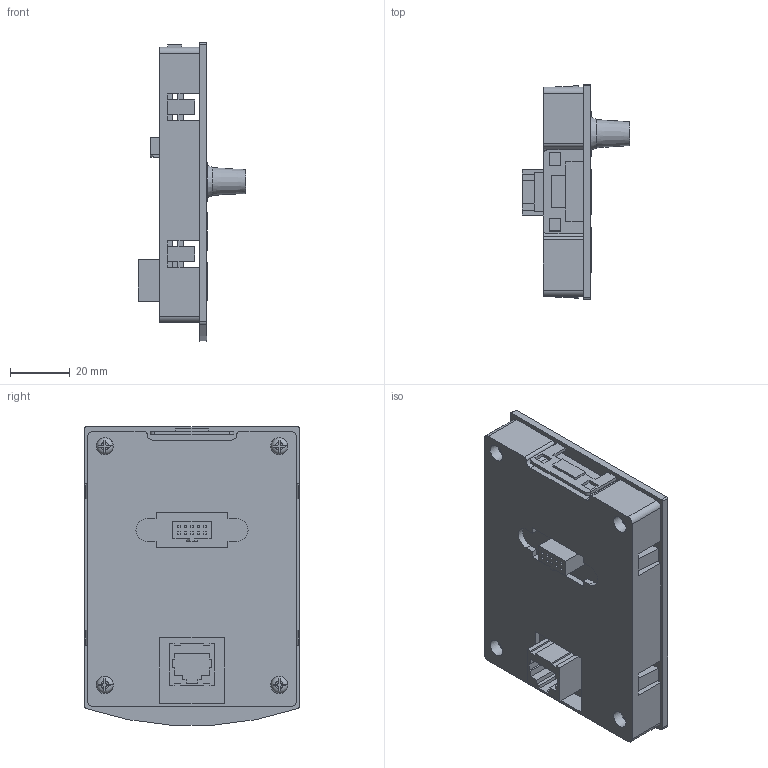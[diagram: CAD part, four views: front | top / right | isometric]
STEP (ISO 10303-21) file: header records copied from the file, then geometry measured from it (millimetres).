
FILE_DESCRIPTION(('STEP AP203'), '1');
FILE_NAME('Ïàíåëü óïðàâëåíèÿ _ LCI-KP-S', '', ('UNSPECIFIED'), ('UNSPECIFIED'), 'C3D Converter', 'C3D Toolkit', '');
FILE_SCHEMA(('CONFIG_CONTROL_DESIGN'));
Length unit declared in the file: millimetre
Products named in the file (1): LCI-KP-S
Bounding box: 35.9 x 72 x 99.77 mm (x, y, z)
Surface area: 43463.5 mm2 (no closed solid volume)
Topology: 0 solids, 1 shells, 425 faces, 1182 edges, 778 vertices
Faces by surface type: plane 340, cylinder 79, torus 4, cone 2
Full cylindrical faces by diameter (mm): 5.8 x4
Entity records: 17644 total; most frequent: CARTESIAN_POINT 3236, ORIENTED_EDGE 2328, DIRECTION 2150, EDGE_CURVE 1172, LINE 942, VECTOR 942, VERTEX_POINT 778, AXIS2_PLACEMENT_3D 604
